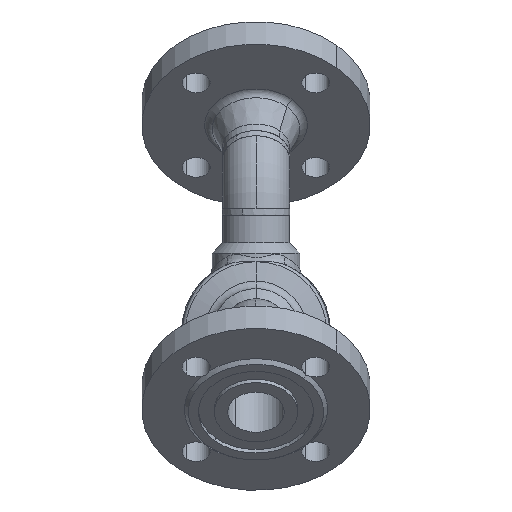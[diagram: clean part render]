
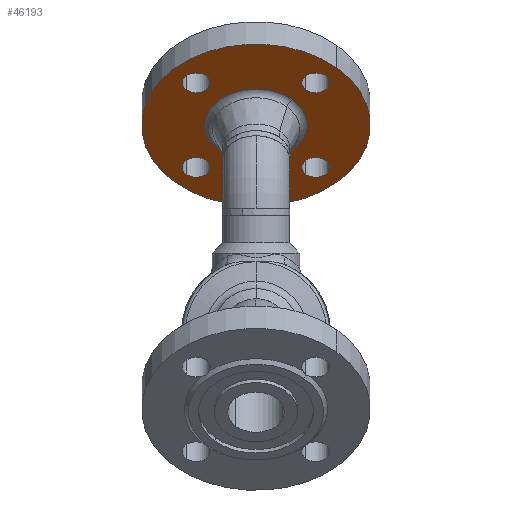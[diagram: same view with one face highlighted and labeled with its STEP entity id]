
A CAD part, front view. The second image highlights one B-rep face of the part: STEP entity #46193.
In plain terms, the highlighted planar face has unit normal (0, -0.707, -0.707) as drawn and (0, 1, 0) by its records, which use the part's own axes.
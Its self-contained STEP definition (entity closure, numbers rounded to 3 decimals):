
#16665 = ORIENTED_EDGE ( 'NONE', *, *, #45743, .F. ) ;
#651 = VERTEX_POINT ( 'NONE', #2097 ) ;
#934 = CIRCLE ( 'NONE', #935, 57.5 ) ;
#935 = AXIS2_PLACEMENT_3D ( 'NONE', #936, #937, #938 ) ;
#936 = CARTESIAN_POINT ( 'NONE',  ( 0., 18., 0. ) ) ;
#937 = DIRECTION ( 'NONE',  ( 0., 1., 0. ) ) ;
#938 = DIRECTION ( 'NONE',  ( -1., 0., 0. ) ) ;
#18052 = EDGE_CURVE ( 'NONE', #45144, #651, #46718, .T. ) ;
#34683 = VERTEX_POINT ( 'NONE', #47121 ) ;
#34719 = ORIENTED_EDGE ( 'NONE', *, *, #14922, .F. ) ;
#2036 = CIRCLE ( 'NONE', #2037, 25.748 ) ;
#2037 = AXIS2_PLACEMENT_3D ( 'NONE', #2038, #2039, #2040 ) ;
#2038 = CARTESIAN_POINT ( 'NONE',  ( 0., 18., 0. ) ) ;
#2039 = DIRECTION ( 'NONE',  ( 0., 1., 0. ) ) ;
#2040 = DIRECTION ( 'NONE',  ( -1., 0., 0. ) ) ;
#2097 = CARTESIAN_POINT ( 'NONE',  ( 7., 18., 42.5 ) ) ;
#18598 = VERTEX_POINT ( 'NONE', #11211 ) ;
#35083 = EDGE_CURVE ( 'NONE', #34683, #36999, #934, .T. ) ;
#35095 = CARTESIAN_POINT ( 'NONE',  ( -35.5, 18., 0. ) ) ;
#2591 = VERTEX_POINT ( 'NONE', #25612 ) ;
#19047 = ORIENTED_EDGE ( 'NONE', *, *, #18052, .F. ) ;
#2950 = CIRCLE ( 'NONE', #2951, 7. ) ;
#2951 = AXIS2_PLACEMENT_3D ( 'NONE', #2984, #2985, #2986 ) ;
#2984 = CARTESIAN_POINT ( 'NONE',  ( 0., 18., -42.5 ) ) ;
#2985 = DIRECTION ( 'NONE',  ( 0., 1., 0. ) ) ;
#2986 = DIRECTION ( 'NONE',  ( 0., 0., 1. ) ) ;
#3080 = EDGE_CURVE ( 'NONE', #6056, #2591, #25759, .T. ) ;
#4028 = EDGE_CURVE ( 'NONE', #36999, #34683, #26998, .T. ) ;
#20436 = EDGE_LOOP ( 'NONE', ( #19047, #16665 ) ) ;
#36828 = VERTEX_POINT ( 'NONE', #14616 ) ;
#36999 = VERTEX_POINT ( 'NONE', #26582 ) ;
#37235 = EDGE_CURVE ( 'NONE', #39427, #36828, #26789, .T. ) ;
#21081 = ORIENTED_EDGE ( 'NONE', *, *, #37235, .F. ) ;
#37873 = CIRCLE ( 'NONE', #37874, 7. ) ;
#37874 = AXIS2_PLACEMENT_3D ( 'NONE', #37875, #37876, #37877 ) ;
#37875 = CARTESIAN_POINT ( 'NONE',  ( -42.5, 18., 0. ) ) ;
#37876 = DIRECTION ( 'NONE',  ( 0., 1., 0. ) ) ;
#37877 = DIRECTION ( 'NONE',  ( 1., 0., 0. ) ) ;
#38284 = ORIENTED_EDGE ( 'NONE', *, *, #27693, .F. ) ;
#38384 = ORIENTED_EDGE ( 'NONE', *, *, #35083, .T. ) ;
#6056 = VERTEX_POINT ( 'NONE', #11373 ) ;
#22474 = EDGE_CURVE ( 'NONE', #36828, #39427, #37873, .T. ) ;
#39427 = VERTEX_POINT ( 'NONE', #35095 ) ;
#23465 = ORIENTED_EDGE ( 'NONE', *, *, #22474, .F. ) ;
#24858 = EDGE_LOOP ( 'NONE', ( #23465, #21081 ) ) ;
#25120 = CIRCLE ( 'NONE', #25156, 7. ) ;
#25156 = AXIS2_PLACEMENT_3D ( 'NONE', #25157, #25158, #25159 ) ;
#25157 = CARTESIAN_POINT ( 'NONE',  ( 42.5, 18., 0. ) ) ;
#25158 = DIRECTION ( 'NONE',  ( 0., 1., 0. ) ) ;
#25159 = DIRECTION ( 'NONE',  ( -1., 0., 0. ) ) ;
#8894 = EDGE_LOOP ( 'NONE', ( #38284, #42316 ) ) ;
#25503 = ORIENTED_EDGE ( 'NONE', *, *, #3080, .F. ) ;
#25612 = CARTESIAN_POINT ( 'NONE',  ( -7., 18., -42.5 ) ) ;
#25713 = CARTESIAN_POINT ( 'NONE',  ( 35.5, 18., 0. ) ) ;
#25715 = CARTESIAN_POINT ( 'NONE',  ( 25.748, 18., 0. ) ) ;
#25759 = CIRCLE ( 'NONE', #25760, 7. ) ;
#25760 = AXIS2_PLACEMENT_3D ( 'NONE', #25761, #25762, #25763 ) ;
#25761 = CARTESIAN_POINT ( 'NONE',  ( 0., 18., -42.5 ) ) ;
#25762 = DIRECTION ( 'NONE',  ( 0., 1., 0. ) ) ;
#25763 = DIRECTION ( 'NONE',  ( 0., 0., 1. ) ) ;
#42316 = ORIENTED_EDGE ( 'NONE', *, *, #16210, .F. ) ;
#26582 = CARTESIAN_POINT ( 'NONE',  ( 57.5, 18., 0. ) ) ;
#26583 = CARTESIAN_POINT ( 'NONE',  ( -25.748, 18., 0. ) ) ;
#26789 = CIRCLE ( 'NONE', #26790, 7. ) ;
#26790 = AXIS2_PLACEMENT_3D ( 'NONE', #26791, #26792, #26825 ) ;
#26791 = CARTESIAN_POINT ( 'NONE',  ( -42.5, 18., 0. ) ) ;
#26792 = DIRECTION ( 'NONE',  ( 0., 1., 0. ) ) ;
#26825 = DIRECTION ( 'NONE',  ( 1., 0., 0. ) ) ;
#26826 = CIRCLE ( 'NONE', #26827, 25.748 ) ;
#26827 = AXIS2_PLACEMENT_3D ( 'NONE', #26828, #26829, #26830 ) ;
#26828 = CARTESIAN_POINT ( 'NONE',  ( 0., 18., 0. ) ) ;
#26829 = DIRECTION ( 'NONE',  ( 0., 1., 0. ) ) ;
#26830 = DIRECTION ( 'NONE',  ( -1., 0., 0. ) ) ;
#26896 = EDGE_CURVE ( 'NONE', #2591, #6056, #2950, .T. ) ;
#26998 = CIRCLE ( 'NONE', #26999, 57.5 ) ;
#26999 = AXIS2_PLACEMENT_3D ( 'NONE', #27000, #27001, #27002 ) ;
#27000 = CARTESIAN_POINT ( 'NONE',  ( 0., 18., 0. ) ) ;
#27001 = DIRECTION ( 'NONE',  ( 0., 1., 0. ) ) ;
#27002 = DIRECTION ( 'NONE',  ( -1., 0., 0. ) ) ;
#11211 = CARTESIAN_POINT ( 'NONE',  ( 49.5, 18., 0. ) ) ;
#27693 = EDGE_CURVE ( 'NONE', #28294, #18598, #25120, .T. ) ;
#11373 = CARTESIAN_POINT ( 'NONE',  ( 7., 18., -42.5 ) ) ;
#44604 = ORIENTED_EDGE ( 'NONE', *, *, #26896, .F. ) ;
#28245 = EDGE_LOOP ( 'NONE', ( #38384, #45995 ) ) ;
#28294 = VERTEX_POINT ( 'NONE', #25713 ) ;
#28392 = VERTEX_POINT ( 'NONE', #25715 ) ;
#28684 = CIRCLE ( 'NONE', #28685, 7. ) ;
#28685 = AXIS2_PLACEMENT_3D ( 'NONE', #28686, #28687, #28688 ) ;
#28686 = CARTESIAN_POINT ( 'NONE',  ( 42.5, 18., 0. ) ) ;
#28687 = DIRECTION ( 'NONE',  ( 0., 1., 0. ) ) ;
#28688 = DIRECTION ( 'NONE',  ( -1., 0., 0. ) ) ;
#45144 = VERTEX_POINT ( 'NONE', #46029 ) ;
#45547 = EDGE_LOOP ( 'NONE', ( #44604, #25503 ) ) ;
#45743 = EDGE_CURVE ( 'NONE', #651, #45144, #46885, .T. ) ;
#45995 = ORIENTED_EDGE ( 'NONE', *, *, #4028, .T. ) ;
#46029 = CARTESIAN_POINT ( 'NONE',  ( -7., 18., 42.5 ) ) ;
#46193 = ADVANCED_FACE ( 'NONE', ( #47432, #47433, #47468, #47469, #47470, #47471 ), #47472, .F. ) ;
#46718 = CIRCLE ( 'NONE', #46719, 7. ) ;
#46719 = AXIS2_PLACEMENT_3D ( 'NONE', #46720, #46721, #46755 ) ;
#46720 = CARTESIAN_POINT ( 'NONE',  ( 0., 18., 42.5 ) ) ;
#46721 = DIRECTION ( 'NONE',  ( 0., 1., 0. ) ) ;
#46755 = DIRECTION ( 'NONE',  ( 0., 0., -1. ) ) ;
#46885 = CIRCLE ( 'NONE', #46921, 7. ) ;
#46921 = AXIS2_PLACEMENT_3D ( 'NONE', #46922, #46923, #46924 ) ;
#46922 = CARTESIAN_POINT ( 'NONE',  ( 0., 18., 42.5 ) ) ;
#46923 = DIRECTION ( 'NONE',  ( 0., 1., 0. ) ) ;
#46924 = DIRECTION ( 'NONE',  ( 0., 0., -1. ) ) ;
#47121 = CARTESIAN_POINT ( 'NONE',  ( -57.5, 18., 0. ) ) ;
#47236 = EDGE_CURVE ( 'NONE', #14572, #28392, #2036, .T. ) ;
#14572 = VERTEX_POINT ( 'NONE', #26583 ) ;
#14616 = CARTESIAN_POINT ( 'NONE',  ( -49.5, 18., 0. ) ) ;
#47432 = FACE_BOUND ( 'NONE', #45547, .T. ) ;
#47433 = FACE_BOUND ( 'NONE', #24858, .T. ) ;
#47468 = FACE_BOUND ( 'NONE', #20436, .T. ) ;
#47469 = FACE_BOUND ( 'NONE', #8894, .T. ) ;
#47470 = FACE_BOUND ( 'NONE', #15276, .T. ) ;
#47471 = FACE_OUTER_BOUND ( 'NONE', #28245, .T. ) ;
#47472 = PLANE ( 'NONE',  #47473 ) ;
#47473 = AXIS2_PLACEMENT_3D ( 'NONE', #47474, #47475, #47476 ) ;
#47474 = CARTESIAN_POINT ( 'NONE',  ( 57.5, 18., 0. ) ) ;
#47475 = DIRECTION ( 'NONE',  ( 0., -1., 0. ) ) ;
#47476 = DIRECTION ( 'NONE',  ( 1., 0., 0. ) ) ;
#14922 = EDGE_CURVE ( 'NONE', #28392, #14572, #26826, .T. ) ;
#14923 = ORIENTED_EDGE ( 'NONE', *, *, #47236, .F. ) ;
#15276 = EDGE_LOOP ( 'NONE', ( #14923, #34719 ) ) ;
#16210 = EDGE_CURVE ( 'NONE', #18598, #28294, #28684, .T. ) ;
